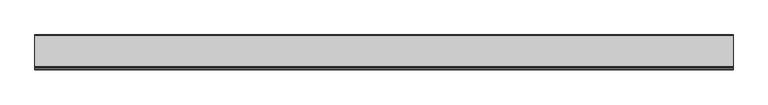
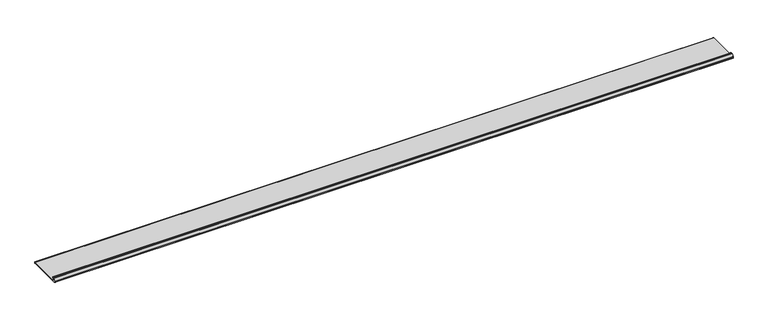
"""IFC4 building model written with IfcOpenShell, lengths in millimetres: proxy geometry, Muestra 6.32m J62 Anti-Slip : Muestra 6.32m J62 Anti-Slip."""

from ifc_helpers import new_model, si_unit, frame, origin, place, context, project, spatial, polyline, circle_curve, source, transform, mapped, element, save
from ifc_brep_helpers import plane_surface, cylinder_surface, revolved_surface, advanced_brep


def generic_models_03d70148(model_context):
    return source(origin(), model_context, "Body", "AdvancedBrep", [
        advanced_brep(
        [(177255.9813459, 2186.5895366, 4.4961293), (177255.9813459, 2186.5895366, 13.0740035), (177255.9813459, 2187.38593, 15.6389168), (177255.9813459, 2201.3496326, 35.9572598), (177255.9813459, 2204.2559305, 37.9209011), (177255.9813459, 2205.1616414, 37.9209011), (177255.9813459, 2206.0628575, 38.9167337), (177255.9813459, 2206.9730633, 39.9134652), (177255.9813459, 2213.313567, 39.9134652), (177255.9813459, 2216.0306998, 37.1963324), (177255.9813459, 2216.0306998, 31.0300543), (177255.9813459, 2211.1826767, 23.5222441), (177255.9813459, 2216.2258693, 12.7946269), (177255.9813459, 2501.0895366, 12.7946269), (177255.9813459, 2503.5895366, 10.2946269), (177255.9813459, 2503.5895366, 2.7171328), (177255.9813459, 2500.8713699, 0.0), (177255.9813459, 2190.5771399, 0.0), (183575.9813459, 2186.5895366, 4.4961293), (183575.9813459, 2190.5771399, 0.0), (183575.9813459, 2500.8713699, 0.0), (183575.9813459, 2503.5885027, 2.7171328), (183575.9813459, 2503.5895366, 10.2946269), (183575.9813459, 2501.0895366, 12.7946269), (183575.9813459, 2216.2258693, 12.7946269), (183575.9813459, 2211.1826767, 23.5222441), (183575.9813459, 2216.0306998, 31.0300543), (183575.9813459, 2216.0306998, 37.1963324), (183575.9813459, 2213.313567, 39.9134652), (183575.9813459, 2206.9730633, 39.9134652), (183575.9813459, 2206.0718472, 38.9176327), (183575.9813459, 2205.1616414, 37.9209011), (183575.9813459, 2204.2559305, 37.9209011), (183575.9813459, 2201.3496326, 35.9572598), (183575.9813459, 2187.38593, 15.6389168), (183575.9813459, 2186.5895366, 13.0740035)],
        [
            (0, 1),
            (1, 2, circle_curve(frame((177255.9813459, 2191.1180912, 13.0740035), z_axis=(-1.0, 0.0, 0.0), x_axis=(0.0, 1.0, 0.0)), 4.5285547)),
            (2, 3),
            (3, 4, circle_curve(frame((177255.9813459, 2205.5713382, 32.8414633), z_axis=(-1.0, 0.0, 0.0), x_axis=(0.0, 1.0, 0.0)), 5.2469978)),
            (4, 5),
            (5, 6, circle_curve(frame((177255.9813459, 2205.1616414, 38.8266121), z_axis=(1.0, 0.0, 0.0), x_axis=(0.0, 1.0, 0.0)), 0.9057109)),
            (6, 7, circle_curve(frame((177255.9813459, 2206.9730633, 39.0077543), z_axis=(-1.0, 0.0, 0.0), x_axis=(0.0, 1.0, 0.0)), 0.9057109)),
            (7, 8),
            (8, 9, circle_curve(frame((177255.9813459, 2213.313567, 37.1963324), z_axis=(-1.0, 0.0, 0.0), x_axis=(0.0, 1.0, 0.0)), 2.7171328)),
            (9, 10),
            (10, 11),
            (11, 12, circle_curve(frame((177255.9813459, 2216.7499768, 19.5902605), z_axis=(1.0, 0.0, 0.0), x_axis=(0.0, 1.0, 0.0)), 6.8158144)),
            (12, 13),
            (13, 14, circle_curve(frame((177255.9813459, 2501.0895366, 10.2946269), z_axis=(-1.0, 0.0, 0.0), x_axis=(0.0, 1.0, 0.0)), 2.5)),
            (14, 15),
            (15, 16, circle_curve(frame((177255.9813459, 2500.8713699, 2.7171328), z_axis=(-1.0, 0.0, 0.0), x_axis=(0.0, 1.0, 0.0)), 2.7171328)),
            (16, 17),
            (17, 0, circle_curve(frame((177255.9813459, 2191.1180912, 4.4961293), z_axis=(-1.0, 0.0, 0.0), x_axis=(0.0, 1.0, 0.0)), 4.5285547)),
            (18, 19, circle_curve(frame((183575.9813459, 2191.1180912, 4.4961293), z_axis=(1.0, 0.0, 0.0), x_axis=(0.0, 1.0, 0.0)), 4.5285547)),
            (19, 20),
            (20, 21, circle_curve(frame((183575.9813459, 2500.8713699, 2.7171328), z_axis=(1.0, 0.0, 0.0), x_axis=(0.0, 1.0, 0.0)), 2.7171328)),
            (21, 22),
            (22, 23, circle_curve(frame((183575.9813459, 2501.0895366, 10.2946269), z_axis=(1.0, 0.0, 0.0), x_axis=(0.0, 1.0, 0.0)), 2.5)),
            (23, 24),
            (24, 25, circle_curve(frame((183575.9813459, 2216.7499768, 19.5902605), z_axis=(-1.0, 0.0, 0.0), x_axis=(0.0, 1.0, 0.0)), 6.8158144)),
            (25, 26),
            (26, 27),
            (27, 28, circle_curve(frame((183575.9813459, 2213.313567, 37.1963324), z_axis=(1.0, 0.0, 0.0), x_axis=(0.0, 1.0, 0.0)), 2.7171328)),
            (28, 29),
            (29, 30, circle_curve(frame((183575.9813459, 2206.9730633, 39.0077543), z_axis=(1.0, 0.0, 0.0), x_axis=(0.0, 1.0, 0.0)), 0.9057109)),
            (30, 31, circle_curve(frame((183575.9813459, 2205.1616414, 38.8266121), z_axis=(-1.0, 0.0, 0.0), x_axis=(0.0, 1.0, 0.0)), 0.9057109)),
            (31, 32),
            (32, 33, circle_curve(frame((183575.9813459, 2205.5713382, 32.8414633), z_axis=(1.0, 0.0, 0.0), x_axis=(0.0, 1.0, 0.0)), 5.2469978)),
            (33, 34),
            (34, 35, circle_curve(frame((183575.9813459, 2191.1180912, 13.0740035), z_axis=(1.0, 0.0, 0.0), x_axis=(0.0, 1.0, 0.0)), 4.5285547)),
            (35, 18),
            (0, 18),
            (35, 1),
            (34, 2),
            (33, 3),
            (32, 4),
            (31, 5),
            (30, 6),
            (29, 7),
            (28, 8),
            (27, 9),
            (26, 10),
            (25, 11),
            (24, 12),
            (23, 13),
            (22, 14),
            (21, 15),
            (20, 16),
            (19, 17),
        ],
        [
            plane_surface(frame((177255.9813459, 2342.0306998, 0.0), z_axis=(-1.0, 0.0, 0.0), x_axis=(0.0, 0.0, 1.0))),
            plane_surface(frame((183575.9813459, 2342.0306998, 0.0), z_axis=(1.0, 0.0, 0.0), x_axis=(0.0, 0.0, 1.0))),
            plane_surface(frame((177255.9813459, 2186.5895366, 4.4961293), z_axis=(0.0, -1.0, 0.0), x_axis=(1.0, 0.0, 0.0))),
            cylinder_surface(frame((177255.9813459, 2191.1180912, 13.0740035), z_axis=(-1.0, 0.0, 0.0), x_axis=(0.0, 1.0, 0.0)), 4.5285547),
            plane_surface(frame((177255.9813459, 2187.38593, 15.6389168), z_axis=(0.0, -0.8241395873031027, 0.5663867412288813), x_axis=(1.0, 0.0, 0.0))),
            cylinder_surface(frame((177255.9813459, 2205.5713382, 32.8414633), z_axis=(-1.0, 0.0, 0.0), x_axis=(0.0, 1.0, 0.0)), 5.2469978),
            plane_surface(frame((177255.9813459, 2204.2559305, 37.9209011), z_axis=(0.0, 0.0, 1.0), x_axis=(1.0, 0.0, 0.0))),
            revolved_surface(polyline([(183575.9813459, 2206.0673523, 38.8266121), (177255.9813459, 2206.0673523, 38.8266121)]), (177255.9813459, 2205.1616414, 38.8266121), (1.0, 0.0, 0.0)),
            cylinder_surface(frame((177255.9813459, 2206.9730633, 39.0077543), z_axis=(-1.0, 0.0, 0.0), x_axis=(0.0, 1.0, 0.0)), 0.9057109),
            plane_surface(frame((177255.9813459, 2206.9730633, 39.9134652), z_axis=(0.0, 0.0, 1.0), x_axis=(1.0, 0.0, 0.0))),
            cylinder_surface(frame((177255.9813459, 2213.313567, 37.1963324), z_axis=(-1.0, 0.0, 0.0), x_axis=(0.0, 1.0, 0.0)), 2.7171328),
            plane_surface(frame((177255.9813459, 2216.0306998, 37.1963324), z_axis=(0.0, 1.0, 0.0), x_axis=(1.0, 0.0, 0.0))),
            plane_surface(frame((177255.9813459, 2216.0306998, 31.0300543), z_axis=(0.0, 0.8400786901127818, -0.5424645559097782), x_axis=(1.0, 0.0, 0.0))),
            revolved_surface(polyline([(183575.9813459, 2223.5657911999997, 19.5902605), (177255.9813459, 2223.5657911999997, 19.5902605)]), (177255.9813459, 2216.7499768, 19.5902605), (1.0, 0.0, 0.0)),
            plane_surface(frame((177255.9813459, 2216.2258693, 12.7946269), z_axis=(0.0, 0.0, 1.0), x_axis=(1.0, 0.0, 0.0))),
            cylinder_surface(frame((177255.9813459, 2501.0895366, 10.2946269), z_axis=(-1.0, 0.0, 0.0), x_axis=(0.0, 1.0, 0.0)), 2.5),
            plane_surface(frame((177255.9813459, 2503.5895366, 10.2946269), z_axis=(0.0, 1.0, 0.0), x_axis=(1.0, 0.0, 0.0))),
            cylinder_surface(frame((177255.9813459, 2500.8713699, 2.7171328), z_axis=(-1.0, 0.0, 0.0), x_axis=(0.0, 1.0, 0.0)), 2.7171328),
            plane_surface(frame((177255.9813459, 2500.8713699, 0.0), z_axis=(0.0, 0.0, -1.0), x_axis=(1.0, 0.0, 0.0))),
            cylinder_surface(frame((177255.9813459, 2191.1180912, 4.4961293), z_axis=(-1.0, 0.0, 0.0), x_axis=(0.0, 1.0, 0.0)), 4.5285547),
        ],
        [
            (0, [[1, 2, 3, 4, 5, 6, 7, 8, 9, 10, 11, 12, 13, 14, 15, 16, 17, 18]]),
            (1, [[19, 20, 21, 22, 23, 24, 25, 26, 27, 28, 29, 30, 31, 32, 33, 34, 35, 36]]),
            (2, [[-1, 37, -36, 38]]),
            (3, [[-2, -38, -35, 39]]),
            (4, [[-3, -39, -34, 40]]),
            (5, [[-4, -40, -33, 41]]),
            (6, [[-5, -41, -32, 42]]),
            (7, [[-6, -42, -31, 43]]),
            (8, [[-7, -43, -30, 44]]),
            (9, [[-8, -44, -29, 45]]),
            (10, [[-9, -45, -28, 46]]),
            (11, [[-10, -46, -27, 47]]),
            (12, [[-11, -47, -26, 48]]),
            (13, [[-12, -48, -25, 49]]),
            (14, [[-13, -49, -24, 50]]),
            (15, [[-14, -50, -23, 51]]),
            (16, [[-15, -51, -22, 52]]),
            (17, [[-16, -52, -21, 53]]),
            (18, [[-17, -53, -20, 54]]),
            (19, [[-18, -54, -19, -37]]),
        ],
    ),
    ])


if __name__ == "__main__":
    model = new_model("IFC4")
    model_context = context("Model", 3, world=origin())
    ifc_project = project(units=[si_unit("LENGTHUNIT", "METRE", prefix="MILLI")], contexts=[model_context])
    site = spatial("IfcSite", under=ifc_project)
    building = spatial("IfcBuilding", under=site)
    placement = place(None, origin())
    generic_models_shape = generic_models_03d70148(model_context)
    element("IfcBuildingElementProxy", 1, Name="Muestra 6.32m J62 Anti-Slip : Muestra 6.32m J62 Anti-Slip", ObjectType="Muestra 6.32m J62 Anti-Slip : Muestra 6.32m J62 Anti-Slip", at=placement, inside=building, context=model_context, shape_type="MappedRepresentation", body=[
        mapped(generic_models_shape, transform((0.0, 0.0, 0.0), x_axis=(1.0, 0.0, 0.0), y_axis=(0.0, 1.0, 0.0), z_axis=(0.0, 0.0, 1.0))),
    ])
    save(model, "model.ifc")
